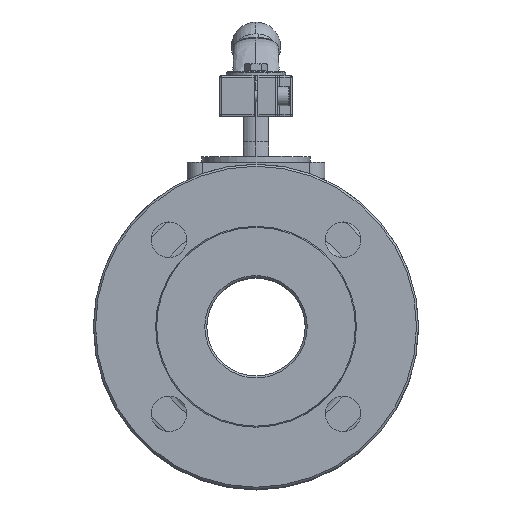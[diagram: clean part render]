
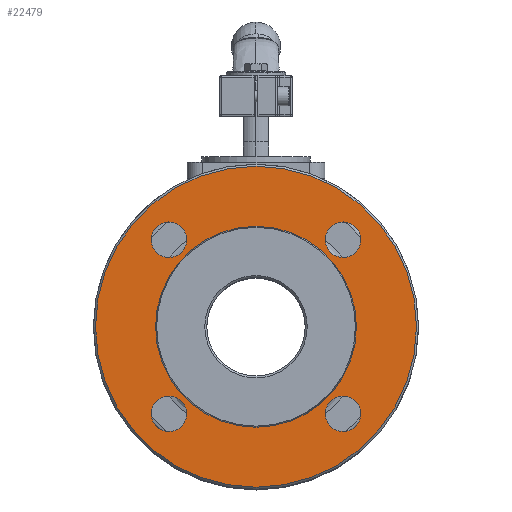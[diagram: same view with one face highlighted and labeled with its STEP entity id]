
A CAD part, top view. The second image highlights one B-rep face of the part: STEP entity #22479.
In plain terms, the highlighted planar face has unit normal (0, 0, 1) as drawn and (0, -1, 0) by its records, which use the part's own axes.
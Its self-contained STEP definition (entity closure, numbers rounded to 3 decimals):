
#39 = EDGE_CURVE ( 'NONE', #11420, #33001, #30586, .T. ) ;
#704 = DIRECTION ( 'NONE',  ( 0., 1., 0. ) ) ;
#1328 = ORIENTED_EDGE ( 'NONE', *, *, #3101, .T. ) ;
#1726 = CARTESIAN_POINT ( 'NONE',  ( 0., -46., -68.75 ) ) ;
#3101 = EDGE_CURVE ( 'NONE', #5532, #26278, #6313, .T. ) ;
#3182 = VERTEX_POINT ( 'NONE', #24194 ) ;
#3204 = CARTESIAN_POINT ( 'NONE',  ( -44.194, -46., 42.194 ) ) ;
#3485 = CARTESIAN_POINT ( 'NONE',  ( -44.194, -46., -46.194 ) ) ;
#3487 = AXIS2_PLACEMENT_3D ( 'NONE', #17303, #704, #20111 ) ;
#3610 = EDGE_CURVE ( 'NONE', #20130, #9007, #22353, .T. ) ;
#4452 = ORIENTED_EDGE ( 'NONE', *, *, #23998, .T. ) ;
#4493 = DIRECTION ( 'NONE',  ( 0., -1., 0. ) ) ;
#4835 = CARTESIAN_POINT ( 'NONE',  ( 0., -46., -2. ) ) ;
#4870 = EDGE_CURVE ( 'NONE', #13788, #17666, #13194, .T. ) ;
#5036 = EDGE_LOOP ( 'NONE', ( #8146, #17256 ) ) ;
#5082 = CARTESIAN_POINT ( 'NONE',  ( 44.194, -46., -46.194 ) ) ;
#5532 = VERTEX_POINT ( 'NONE', #19265 ) ;
#5976 = DIRECTION ( 'NONE',  ( 0., 0., 1. ) ) ;
#6250 = DIRECTION ( 'NONE',  ( 0., 1., 0. ) ) ;
#6270 = DIRECTION ( 'NONE',  ( -1., 0., 0. ) ) ;
#6313 = CIRCLE ( 'NONE', #9909, 51. ) ;
#7209 = FACE_BOUND ( 'NONE', #35246, .T. ) ;
#7369 = AXIS2_PLACEMENT_3D ( 'NONE', #10470, #29760, #13229 ) ;
#7528 = DIRECTION ( 'NONE',  ( 0., 1., 0. ) ) ;
#7650 = DIRECTION ( 'NONE',  ( 0., 0., 1. ) ) ;
#7899 = DIRECTION ( 'NONE',  ( 0., 0., 1. ) ) ;
#8146 = ORIENTED_EDGE ( 'NONE', *, *, #3610, .T. ) ;
#8240 = EDGE_CURVE ( 'NONE', #9900, #3182, #8359, .T. ) ;
#8359 = CIRCLE ( 'NONE', #3487, 9. ) ;
#8825 = AXIS2_PLACEMENT_3D ( 'NONE', #1726, #4493, #23900 ) ;
#8963 = DIRECTION ( 'NONE',  ( 0., 1., 0. ) ) ;
#9007 = VERTEX_POINT ( 'NONE', #22824 ) ;
#9900 = VERTEX_POINT ( 'NONE', #11489 ) ;
#9909 = AXIS2_PLACEMENT_3D ( 'NONE', #25532, #8963, #28249 ) ;
#10470 = CARTESIAN_POINT ( 'NONE',  ( 0., -46., -2. ) ) ;
#10784 = EDGE_LOOP ( 'NONE', ( #17133, #11730 ) ) ;
#11420 = VERTEX_POINT ( 'NONE', #24502 ) ;
#11489 = CARTESIAN_POINT ( 'NONE',  ( 44.194, -46., -37.194 ) ) ;
#11674 = VERTEX_POINT ( 'NONE', #22653 ) ;
#11730 = ORIENTED_EDGE ( 'NONE', *, *, #28586, .T. ) ;
#11920 = CIRCLE ( 'NONE', #21235, 9. ) ;
#12087 = AXIS2_PLACEMENT_3D ( 'NONE', #5082, #24501, #7899 ) ;
#12101 = EDGE_CURVE ( 'NONE', #11674, #23477, #14288, .T. ) ;
#12251 = CARTESIAN_POINT ( 'NONE',  ( 0., -46., 79.5 ) ) ;
#12541 = ORIENTED_EDGE ( 'NONE', *, *, #8240, .T. ) ;
#13194 = CIRCLE ( 'NONE', #17120, 9. ) ;
#13229 = DIRECTION ( 'NONE',  ( 0., 0., 1. ) ) ;
#13389 = CARTESIAN_POINT ( 'NONE',  ( -44.194, -46., -46.194 ) ) ;
#13623 = CARTESIAN_POINT ( 'NONE',  ( 0., -46., -2. ) ) ;
#13788 = VERTEX_POINT ( 'NONE', #13876 ) ;
#13876 = CARTESIAN_POINT ( 'NONE',  ( -35.194, -46., -46.194 ) ) ;
#14040 = AXIS2_PLACEMENT_3D ( 'NONE', #22842, #22610, #22497 ) ;
#14288 = CIRCLE ( 'NONE', #35576, 9. ) ;
#15939 = CIRCLE ( 'NONE', #25254, 51. ) ;
#16208 = DIRECTION ( 'NONE',  ( -1., 0., 0. ) ) ;
#16429 = DIRECTION ( 'NONE',  ( 0., 0., 1. ) ) ;
#17120 = AXIS2_PLACEMENT_3D ( 'NONE', #3485, #22866, #6270 ) ;
#17133 = ORIENTED_EDGE ( 'NONE', *, *, #39, .T. ) ;
#17256 = ORIENTED_EDGE ( 'NONE', *, *, #31049, .T. ) ;
#17303 = CARTESIAN_POINT ( 'NONE',  ( 44.194, -46., -46.194 ) ) ;
#17666 = VERTEX_POINT ( 'NONE', #33453 ) ;
#18152 = EDGE_LOOP ( 'NONE', ( #20906, #29148 ) ) ;
#19265 = CARTESIAN_POINT ( 'NONE',  ( 0., -46., 49. ) ) ;
#19305 = ORIENTED_EDGE ( 'NONE', *, *, #20469, .T. ) ;
#19518 = CIRCLE ( 'NONE', #19975, 81.5 ) ;
#19975 = AXIS2_PLACEMENT_3D ( 'NONE', #13623, #32864, #16429 ) ;
#20111 = DIRECTION ( 'NONE',  ( 0., 0., 1. ) ) ;
#20130 = VERTEX_POINT ( 'NONE', #12251 ) ;
#20469 = EDGE_CURVE ( 'NONE', #26278, #5532, #15939, .T. ) ;
#20722 = AXIS2_PLACEMENT_3D ( 'NONE', #22844, #6250, #25625 ) ;
#20906 = ORIENTED_EDGE ( 'NONE', *, *, #12101, .T. ) ;
#21098 = FACE_BOUND ( 'NONE', #29895, .T. ) ;
#21235 = AXIS2_PLACEMENT_3D ( 'NONE', #13389, #32641, #16208 ) ;
#21959 = FACE_BOUND ( 'NONE', #25701, .T. ) ;
#22012 = CIRCLE ( 'NONE', #12087, 9. ) ;
#22353 = CIRCLE ( 'NONE', #7369, 81.5 ) ;
#22479 = ADVANCED_FACE ( 'NONE', ( #35578, #21959, #7209, #29237, #28369, #21098 ), #26536, .T. ) ;
#22497 = DIRECTION ( 'NONE',  ( 0., 0., 1. ) ) ;
#22585 = DIRECTION ( 'NONE',  ( 0., 1., 0. ) ) ;
#22610 = DIRECTION ( 'NONE',  ( 0., 1., 0. ) ) ;
#22653 = CARTESIAN_POINT ( 'NONE',  ( 44.194, -46., 51.194 ) ) ;
#22824 = CARTESIAN_POINT ( 'NONE',  ( 0., -46., -83.5 ) ) ;
#22842 = CARTESIAN_POINT ( 'NONE',  ( -44.194, -46., 42.194 ) ) ;
#22844 = CARTESIAN_POINT ( 'NONE',  ( 44.194, -46., 42.194 ) ) ;
#22866 = DIRECTION ( 'NONE',  ( 0., 1., 0. ) ) ;
#23477 = VERTEX_POINT ( 'NONE', #27523 ) ;
#23900 = DIRECTION ( 'NONE',  ( 0., 0., -1. ) ) ;
#23998 = EDGE_CURVE ( 'NONE', #17666, #13788, #11920, .T. ) ;
#24120 = CARTESIAN_POINT ( 'NONE',  ( 44.194, -46., 42.194 ) ) ;
#24194 = CARTESIAN_POINT ( 'NONE',  ( 44.194, -46., -55.194 ) ) ;
#24250 = DIRECTION ( 'NONE',  ( 0., 1., 0. ) ) ;
#24429 = CARTESIAN_POINT ( 'NONE',  ( -44.194, -46., 33.194 ) ) ;
#24501 = DIRECTION ( 'NONE',  ( 0., 1., 0. ) ) ;
#24502 = CARTESIAN_POINT ( 'NONE',  ( -44.194, -46., 51.194 ) ) ;
#25254 = AXIS2_PLACEMENT_3D ( 'NONE', #4835, #24250, #7650 ) ;
#25532 = CARTESIAN_POINT ( 'NONE',  ( 0., -46., -2. ) ) ;
#25625 = DIRECTION ( 'NONE',  ( 0., 0., 1. ) ) ;
#25701 = EDGE_LOOP ( 'NONE', ( #12541, #27018 ) ) ;
#26278 = VERTEX_POINT ( 'NONE', #28874 ) ;
#26536 = PLANE ( 'NONE',  #8825 ) ;
#26857 = DIRECTION ( 'NONE',  ( 0., 0., 1. ) ) ;
#27018 = ORIENTED_EDGE ( 'NONE', *, *, #33587, .T. ) ;
#27523 = CARTESIAN_POINT ( 'NONE',  ( 44.194, -46., 33.194 ) ) ;
#27744 = AXIS2_PLACEMENT_3D ( 'NONE', #3204, #22585, #5976 ) ;
#28249 = DIRECTION ( 'NONE',  ( 0., 0., 1. ) ) ;
#28369 = FACE_BOUND ( 'NONE', #18152, .T. ) ;
#28586 = EDGE_CURVE ( 'NONE', #33001, #11420, #33703, .T. ) ;
#28874 = CARTESIAN_POINT ( 'NONE',  ( 0., -46., -53. ) ) ;
#29100 = ORIENTED_EDGE ( 'NONE', *, *, #4870, .T. ) ;
#29148 = ORIENTED_EDGE ( 'NONE', *, *, #34368, .T. ) ;
#29237 = FACE_BOUND ( 'NONE', #10784, .T. ) ;
#29760 = DIRECTION ( 'NONE',  ( 0., -1., 0. ) ) ;
#29895 = EDGE_LOOP ( 'NONE', ( #1328, #19305 ) ) ;
#30586 = CIRCLE ( 'NONE', #14040, 9. ) ;
#31049 = EDGE_CURVE ( 'NONE', #9007, #20130, #19518, .T. ) ;
#32641 = DIRECTION ( 'NONE',  ( 0., 1., 0. ) ) ;
#32864 = DIRECTION ( 'NONE',  ( 0., -1., 0. ) ) ;
#33001 = VERTEX_POINT ( 'NONE', #24429 ) ;
#33453 = CARTESIAN_POINT ( 'NONE',  ( -53.194, -46., -46.194 ) ) ;
#33587 = EDGE_CURVE ( 'NONE', #3182, #9900, #22012, .T. ) ;
#33703 = CIRCLE ( 'NONE', #27744, 9. ) ;
#34354 = CIRCLE ( 'NONE', #20722, 9. ) ;
#34368 = EDGE_CURVE ( 'NONE', #23477, #11674, #34354, .T. ) ;
#35246 = EDGE_LOOP ( 'NONE', ( #4452, #29100 ) ) ;
#35576 = AXIS2_PLACEMENT_3D ( 'NONE', #24120, #7528, #26857 ) ;
#35578 = FACE_OUTER_BOUND ( 'NONE', #5036, .T. ) ;
